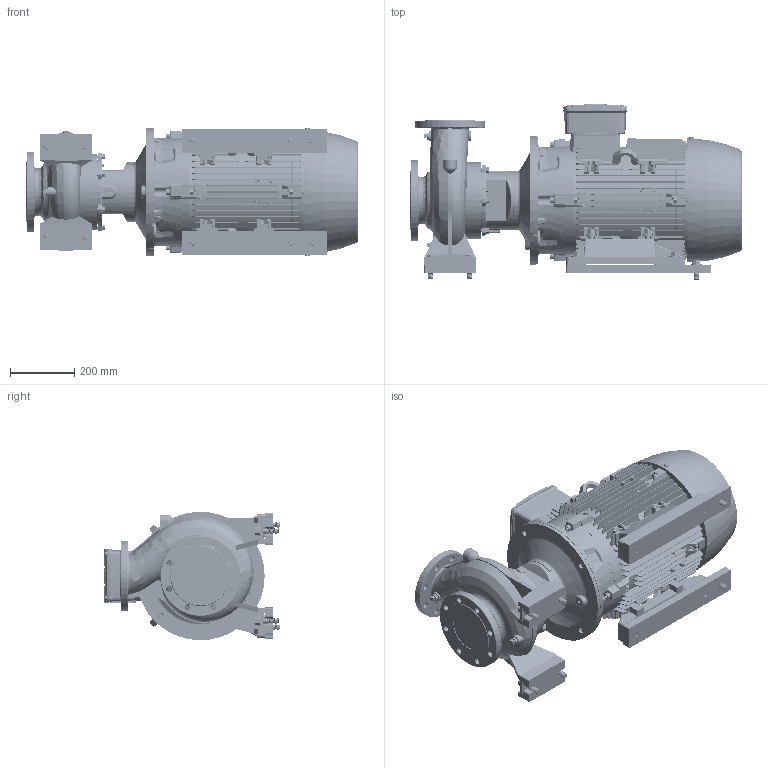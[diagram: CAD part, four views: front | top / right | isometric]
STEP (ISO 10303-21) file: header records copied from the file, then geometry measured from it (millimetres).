
FILE_DESCRIPTION (( 'STEP AP214' ), '1' );
FILE_NAME ('GSD2 100-160_30.0 & 37.0_(200ML)_W21.STEP', '2026-07-08T02:24:42', ( '' ), ( '' ), 'SwSTEP 2.0', 'SolidWorks 2024', '' );
FILE_SCHEMA (( 'AUTOMOTIVE_DESIGN' ));
Length unit declared in the file: millimetre
Products named in the file (10): Parametric bolt and washer_SFT-A365B; GSD2  100-160_30.0 & 37.0_(200ML)_W21; 200M_L ALIE3_W21T_B35; 80x25 - CGSDA-5271; Parametric bolt_SFT-A359B; Parametric bolt_SFT-A365B; Parametric Flat Washer_M16; 100-160-200M_L_ﾃﾞﾌｫﾙﾄ; CGS11-5321_2_3_4_5_CGS11-5322; Parametric bolt and washer_SFT-A359B
Assembly tree (20 placements, depth 3):
  GSD2  100-160_30.0 & 37.0_(200ML)_W21
    100-160-200M_L_ﾃﾞﾌｫﾙﾄ
    CGS11-5321_2_3_4_5_CGS11-5322  x2
    80x25 - CGSDA-5271  x2
    Parametric bolt and washer_SFT-A365B  x4
      Parametric bolt_SFT-A365B
      Parametric Flat Washer_M16
    Parametric bolt and washer_SFT-A359B  x6
      Parametric bolt_SFT-A359B
      Parametric Flat Washer_M16
    200M_L ALIE3_W21T_B35
Bounding box: 1033.8 x 546.5 x 400 mm (x, y, z)
Volume: 85906668.5 mm3; surface area: 4417088.4 mm2
Topology: 47 solids, 57 shells, 7292 faces, 18891 edges, 12121 vertices
Faces by surface type: plane 4169, cylinder 1366, bspline 1034, cone 528, torus 191, sphere 4
Entity records: 292746 total; most frequent: CARTESIAN_POINT 140122, ORIENTED_EDGE 34238, DIRECTION 27262, EDGE_CURVE 17119, VERTEX_POINT 11035, VECTOR 10548, LINE 10548, AXIS2_PLACEMENT_3D 8357
